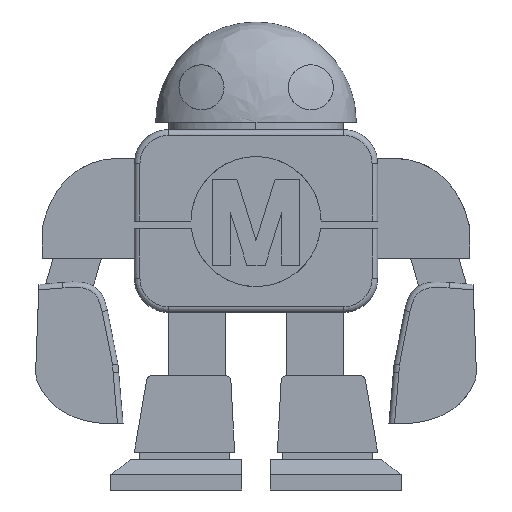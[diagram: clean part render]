
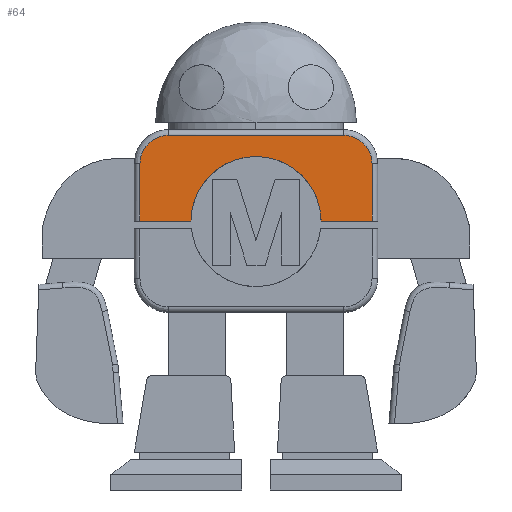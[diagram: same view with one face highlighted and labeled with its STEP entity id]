
A CAD part, front view. The second image highlights one B-rep face of the part: STEP entity #64.
In plain terms, the highlighted planar face has unit normal (0, -1, 0).
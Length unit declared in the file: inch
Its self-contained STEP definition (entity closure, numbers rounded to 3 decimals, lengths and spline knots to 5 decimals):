
#64=ADVANCED_FACE('',(#215),#2474,.T.);
#215=FACE_OUTER_BOUND('',#366,.T.);
#366=EDGE_LOOP('',(#688,#689,#690,#691,#692,#693,#694,#695));
#688=ORIENTED_EDGE('',*,*,#1527,.T.);
#689=ORIENTED_EDGE('',*,*,#1530,.F.);
#690=ORIENTED_EDGE('',*,*,#1459,.T.);
#691=ORIENTED_EDGE('',*,*,#1454,.T.);
#692=ORIENTED_EDGE('',*,*,#1455,.T.);
#693=ORIENTED_EDGE('',*,*,#1521,.F.);
#694=ORIENTED_EDGE('',*,*,#1523,.T.);
#695=ORIENTED_EDGE('',*,*,#1525,.F.);
#1454=EDGE_CURVE('',#2304,#2305,#1935,.T.);
#1455=EDGE_CURVE('',#2305,#2338,#1936,.T.);
#1459=EDGE_CURVE('',#2339,#2304,#1940,.T.);
#1521=EDGE_CURVE('',#2352,#2338,#1741,.T.);
#1523=EDGE_CURVE('',#2352,#2353,#1743,.T.);
#1525=EDGE_CURVE('',#2350,#2353,#1745,.T.);
#1527=EDGE_CURVE('',#2350,#2351,#1747,.T.);
#1530=EDGE_CURVE('',#2339,#2351,#1749,.T.);
#1741=(
BOUNDED_CURVE()
B_SPLINE_CURVE(1,(#4474,#4475),.UNSPECIFIED.,.F.,.F.)
B_SPLINE_CURVE_WITH_KNOTS((2,2),(0.,0.51412),
 .UNSPECIFIED.)
CURVE()
GEOMETRIC_REPRESENTATION_ITEM()
RATIONAL_B_SPLINE_CURVE((1.,1.))
REPRESENTATION_ITEM('')
);
#1743=(
BOUNDED_CURVE()
B_SPLINE_CURVE(3,(#4479,#4480,#4481,#4482),.UNSPECIFIED.,.F.,.F.)
B_SPLINE_CURVE_WITH_KNOTS((4,4),(0.,0.39944),
 .UNSPECIFIED.)
CURVE()
GEOMETRIC_REPRESENTATION_ITEM()
RATIONAL_B_SPLINE_CURVE((1.,1.,1.,1.))
REPRESENTATION_ITEM('')
);
#1745=(
BOUNDED_CURVE()
B_SPLINE_CURVE(1,(#4486,#4487),.UNSPECIFIED.,.F.,.F.)
B_SPLINE_CURVE_WITH_KNOTS((2,2),(0.,1.57239),
 .UNSPECIFIED.)
CURVE()
GEOMETRIC_REPRESENTATION_ITEM()
RATIONAL_B_SPLINE_CURVE((1.,1.))
REPRESENTATION_ITEM('')
);
#1747=(
BOUNDED_CURVE()
B_SPLINE_CURVE(3,(#4491,#4492,#4493,#4494),.UNSPECIFIED.,.F.,.F.)
B_SPLINE_CURVE_WITH_KNOTS((4,4),(0.,0.39944),.UNSPECIFIED.)
CURVE()
GEOMETRIC_REPRESENTATION_ITEM()
RATIONAL_B_SPLINE_CURVE((1.,1.,1.,1.))
REPRESENTATION_ITEM('')
);
#1749=(
BOUNDED_CURVE()
B_SPLINE_CURVE(1,(#4501,#4502),.UNSPECIFIED.,.F.,.F.)
B_SPLINE_CURVE_WITH_KNOTS((2,2),(0.,0.51412),
 .UNSPECIFIED.)
CURVE()
GEOMETRIC_REPRESENTATION_ITEM()
RATIONAL_B_SPLINE_CURVE((1.,1.))
REPRESENTATION_ITEM('')
);
#1935=B_SPLINE_CURVE_WITH_KNOTS('',3,(#4316,#4317,#4318,#4319,#4320,#4321,
#4322),.UNSPECIFIED.,.F.,.F.,(4,3,4),(0.,1.,2.),.UNSPECIFIED.);
#1936=B_SPLINE_CURVE_WITH_KNOTS('',1,(#4323,#4324),.UNSPECIFIED.,.F.,.F.,
(2,2),(24.16417,33.63127),.UNSPECIFIED.);
#1940=B_SPLINE_CURVE_WITH_KNOTS('',1,(#4331,#4332),.UNSPECIFIED.,.F.,.F.,
(2,2),(-9.4671,0.),.UNSPECIFIED.);
#2304=VERTEX_POINT('',#3738);
#2305=VERTEX_POINT('',#3739);
#2338=VERTEX_POINT('',#3772);
#2339=VERTEX_POINT('',#3773);
#2350=VERTEX_POINT('',#3784);
#2351=VERTEX_POINT('',#3785);
#2352=VERTEX_POINT('',#3786);
#2353=VERTEX_POINT('',#3787);
#2474=PLANE('',#2723);
#2723=AXIS2_PLACEMENT_3D('',#3294,#2876,$);
#2876=DIRECTION('',(0.,-1.,0.));
#3294=CARTESIAN_POINT('',(-27.07808,20.70274,1.93032));
#3738=CARTESIAN_POINT('',(-26.60002,20.70274,1.93032));
#3739=CARTESIAN_POINT('',(-25.43309,20.70274,1.93032));
#3772=CARTESIAN_POINT('',(-24.97591,20.70274,1.93032));
#3773=CARTESIAN_POINT('',(-27.0572,20.70274,1.93032));
#3784=CARTESIAN_POINT('',(-26.80275,20.70274,2.69889));
#3785=CARTESIAN_POINT('',(-27.0572,20.70274,2.44444));
#3786=CARTESIAN_POINT('',(-24.97591,20.70274,2.44444));
#3787=CARTESIAN_POINT('',(-25.23036,20.70274,2.69889));
#4316=CARTESIAN_POINT('',(-26.60002,20.70274,1.93032));
#4317=CARTESIAN_POINT('',(-26.59746,20.70274,2.25043));
#4318=CARTESIAN_POINT('',(-26.33727,20.70274,2.50917));
#4319=CARTESIAN_POINT('',(-26.01656,20.70274,2.50917));
#4320=CARTESIAN_POINT('',(-25.69584,20.70274,2.50917));
#4321=CARTESIAN_POINT('',(-25.43565,20.70274,2.25043));
#4322=CARTESIAN_POINT('',(-25.43309,20.70274,1.93032));
#4323=CARTESIAN_POINT('',(-25.43309,20.70274,1.93032));
#4324=CARTESIAN_POINT('',(-24.97591,20.70274,1.93032));
#4331=CARTESIAN_POINT('',(-27.0572,20.70274,1.93032));
#4332=CARTESIAN_POINT('',(-26.60002,20.70274,1.93032));
#4474=CARTESIAN_POINT('',(-24.97591,20.70274,2.44444));
#4475=CARTESIAN_POINT('',(-24.97591,20.70274,1.93032));
#4479=CARTESIAN_POINT('',(-24.97591,20.70274,2.44444));
#4480=CARTESIAN_POINT('',(-24.97264,20.70274,2.58016));
#4481=CARTESIAN_POINT('',(-25.09465,20.70274,2.70216));
#4482=CARTESIAN_POINT('',(-25.23036,20.70274,2.69889));
#4486=CARTESIAN_POINT('',(-26.80275,20.70274,2.69889));
#4487=CARTESIAN_POINT('',(-25.23036,20.70274,2.69889));
#4491=CARTESIAN_POINT('',(-26.80275,20.70274,2.69889));
#4492=CARTESIAN_POINT('',(-26.93846,20.70274,2.70216));
#4493=CARTESIAN_POINT('',(-27.06047,20.70274,2.58016));
#4494=CARTESIAN_POINT('',(-27.0572,20.70274,2.44444));
#4501=CARTESIAN_POINT('',(-27.0572,20.70274,1.93032));
#4502=CARTESIAN_POINT('',(-27.0572,20.70274,2.44444));
